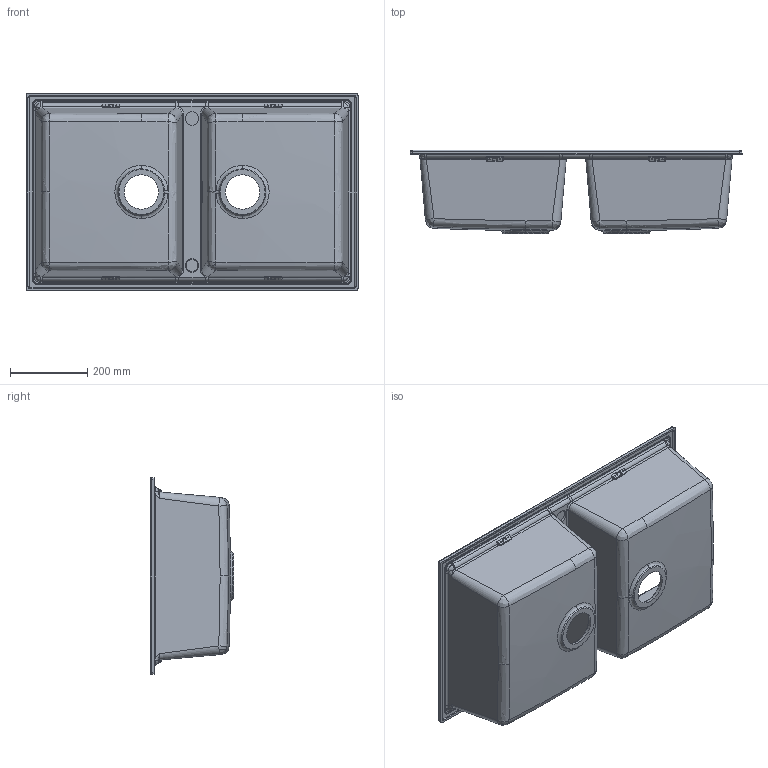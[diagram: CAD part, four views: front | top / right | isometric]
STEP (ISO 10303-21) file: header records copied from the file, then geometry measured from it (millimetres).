
FILE_DESCRIPTION (( 'STEP AP203' ), '1' );
FILE_NAME ('Best450.STEP', '2018-10-10T09:19:07', ( '' ), ( '' ), 'SwSTEP 2.0', 'SolidWorks 2013', '' );
FILE_SCHEMA (( 'CONFIG_CONTROL_DESIGN' ));
Length unit declared in the file: millimetre
Products named in the file (1): Best450
Bounding box: 860 x 216.51 x 510 mm (x, y, z)
Volume: 7590122.2 mm3; surface area: 1892935.8 mm2
Topology: 1 solids, 1 shells, 530 faces, 1249 edges, 711 vertices
Faces by surface type: bspline 276, cylinder 172, plane 74, cone 8
Entity records: 28945 total; most frequent: CARTESIAN_POINT 18502, ORIENTED_EDGE 2446, DIRECTION 1819, EDGE_CURVE 1223, AXIS2_PLACEMENT_3D 746, VERTEX_POINT 711, EDGE_LOOP 552, FACE_OUTER_BOUND 530
